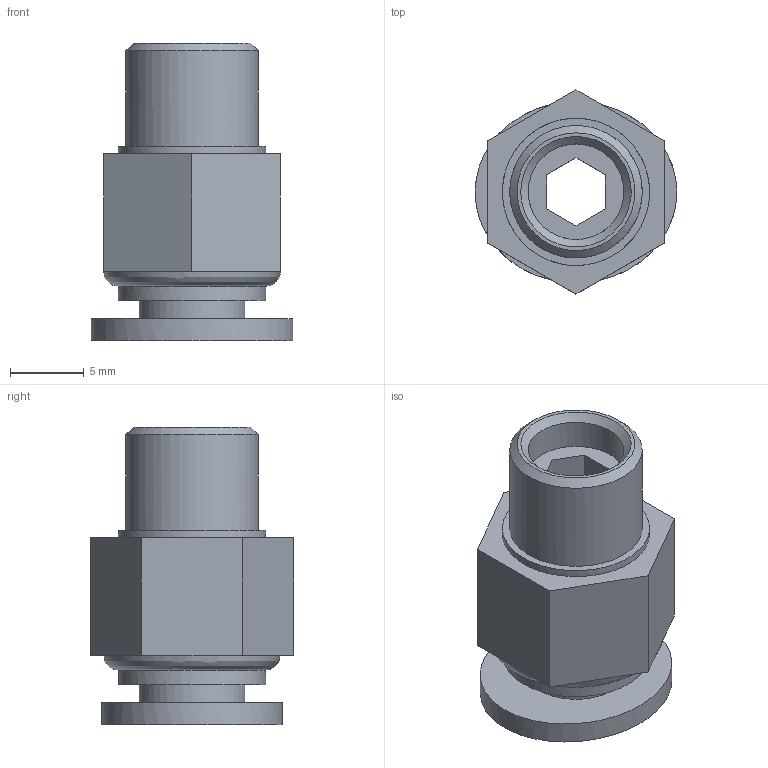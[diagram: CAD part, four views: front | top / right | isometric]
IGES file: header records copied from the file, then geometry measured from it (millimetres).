
Global section: file name: 123.018-6; native system: Autodesk Inventor 2015; preprocessor: unknown; author: Wojciech Koczwara; date: 20140901.155706; units: millimetre
Bounding box: 13.7 x 13.86 x 20.2 mm (x, y, z)
Volume: 1338.5 mm3; surface area: 1785.4 mm2
Topology: 2 solids, 2 shells, 38 faces, 85 edges, 56 vertices
Faces by surface type: bspline 38
